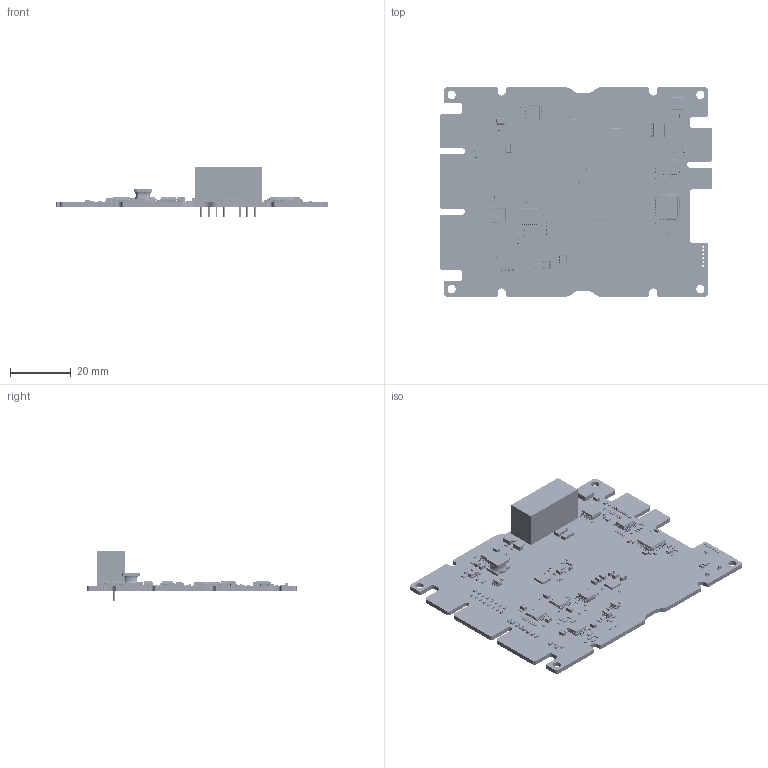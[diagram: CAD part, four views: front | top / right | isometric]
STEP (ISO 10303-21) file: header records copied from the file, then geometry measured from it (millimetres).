
FILE_DESCRIPTION(('KiCad electronic assembly'),'2;1');
FILE_NAME('module-template.step','2026-05-22T13:40:02',('Pcbnew'),( 'Kicad'),'Open CASCADE STEP processor 7.9','KiCad to STEP converter' ,'Unknown');
FILE_SCHEMA(('AUTOMOTIVE_DESIGN { 1 0 10303 214 1 1 1 1 }'));
Length unit declared in the file: millimetre
Products named in the file (32): module-template 1; L_0402_1005Metric; R_0402_1005Metric; R_0603_1608Metric; TSSOP-16_4.4x5mm_P0.65mm; LQFP-48_7x7mm_P0.5mm; C_0402_1005Metric; C_0805_2012Metric; D_0603_1608Metric; Texas_RGE0024C_VQFN-24-1EP_4x4mm_P0.5mm_EP2.1x2.1mm; SOIC-8_3.9x4.9mm_P1.27mm; LED_0603_1608Metric; Fuse_0603_1608Metric; D_SOD-523; SOT-23-5; C_1808_4520Metric; R_0805_2012Metric; C_1206_3216Metric; SOT-583-8; SOIC-8-1EP_3.9x4.9mm_P1.27mm_EP2.41x3.81mm; SOT-553; C_0603_1608Metric; Texas_RSA_VQFN-16-1EP_4x4mm_P0.65mm_EP2.7x2.7mm; L_Changjiang_FNR4018S; Converter_DCDC_TRACO_TEC2-12xxWI_24xxWI_48xxWI_THT; L_TDK_VLS6045EX_VLS6045AF; SOT-23-6; Crystal_SMD_2016-4Pin_2.0x1.6mm; SSOP-16_3.9x4.9mm_P0.635mm; AC0323-mio_silkscreen; AC0323-mio_PCB
Assembly tree (196 placements, depth 2):
  module-template 1
    L_0402_1005Metric  x24
    R_0402_1005Metric  x59
    R_0603_1608Metric  x12
    TSSOP-16_4.4x5mm_P0.65mm  x2
    LQFP-48_7x7mm_P0.5mm
    C_0402_1005Metric  x32
    C_0805_2012Metric  x18
    D_0603_1608Metric  x10
    Texas_RGE0024C_VQFN-24-1EP_4x4mm_P0.5mm_EP2.1x2.1mm
    SOIC-8_3.9x4.9mm_P1.27mm  x3
    LED_0603_1608Metric  x3
    Fuse_0603_1608Metric
    D_SOD-523  x2
    SOT-23-5  x3
    C_1808_4520Metric  x2
    R_0805_2012Metric  x2
    C_1206_3216Metric  x2
    SOT-583-8  x2
    SOIC-8-1EP_3.9x4.9mm_P1.27mm_EP2.41x3.81mm
    SOT-553
    C_0603_1608Metric  x5
    Texas_RSA_VQFN-16-1EP_4x4mm_P0.65mm_EP2.7x2.7mm
    L_Changjiang_FNR4018S
    Converter_DCDC_TRACO_TEC2-12xxWI_24xxWI_48xxWI_THT
    L_TDK_VLS6045EX_VLS6045AF
    SOT-23-6
    Crystal_SMD_2016-4Pin_2.0x1.6mm
    SSOP-16_3.9x4.9mm_P0.635mm
    AC0323-mio_silkscreen
    AC0323-mio_silkscreen
    AC0323-mio_PCB
Bounding box: 90 x 69 x 16.7 mm (x, y, z)
Volume: 11736.4 mm3; surface area: 15970.9 mm2
Topology: 202 solids, 1307 shells, 9378 faces, 37731 edges, 30068 vertices
Faces by surface type: plane 6574, cylinder 2498, bspline 252, torus 50, sphere 4
Full cylindrical faces by diameter (mm): 0.1 x2, 0.25 x1, 0.4 x2, 0.58 x7, 0.65 x6, 1 x7, 2.7 x4
Entity records: 275905 total; most frequent: CARTESIAN_POINT 53078, DIRECTION 38317, ORIENTED_EDGE 31900, EDGE_CURVE 23951, VERTEX_POINT 21065, LINE 17389, VECTOR 17389, AXIS2_PLACEMENT_3D 10464
